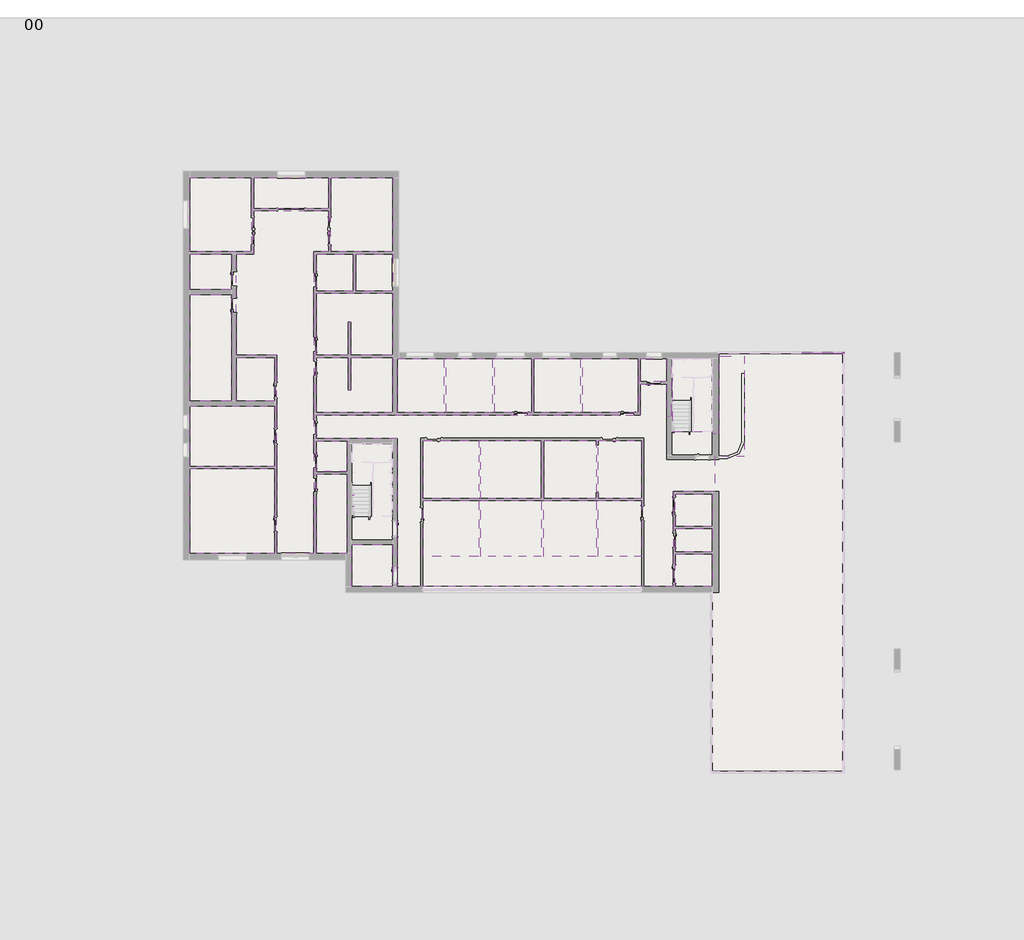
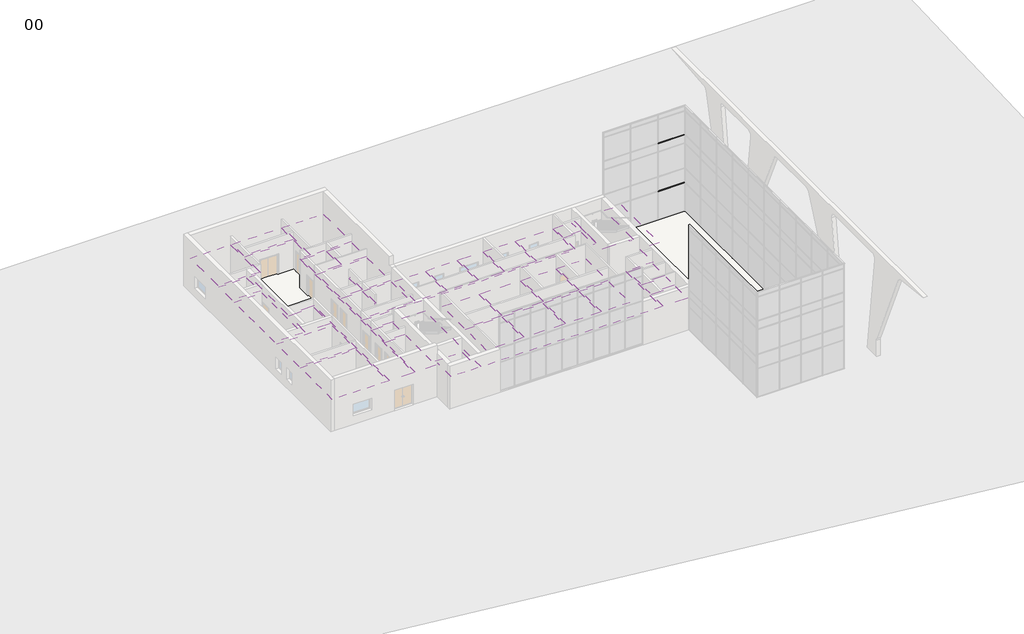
# One storey, part 8 of 11: 36 coverings, 8 footings, 5 members, 4 proxies, 1 slab.
"""IFC4 building model written with IfcOpenShell, lengths in millimetres."""

from ifc_helpers import new_model, si_unit, frame, origin, place, context, project, spatial, polyline, outline, extrude, faceted_brep, transform, mapped, element, save
from components import support_circular_support_bend_943144f1, rectangular_mullion_curtainwallmullion_rectangular_generic_83e55909, rectangular_mullion_curtainwallmullion_rectangular_generic_2e425acd, rectangular_mullion_curtainwallmullion_rectangular_generic_3bdb59d8, rectangular_mullion_curtainwallmullion_rectangular_generic_d47b8a9d

model = new_model("IFC4")

# Units and contexts
model_context = context("Model", 3, world=origin())
ifc_project = project(units=[si_unit("LENGTHUNIT", "METRE", prefix="MILLI")], contexts=[model_context])

# Site, building, storey
site = spatial("IfcSite", under=ifc_project)
building = spatial("IfcBuilding", under=site)
storey = spatial("IfcBuildingStorey", under=building, Name="00", Elevation=0.0)

# Proxies
placement = place(None, origin())
support_circular_support_bend_shape = support_circular_support_bend_943144f1(model_context)
element("IfcBuildingElementProxy", 1, Name="Support_ Circular : Support_Bend", ObjectType="Support_ Circular : Support_Bend", at=placement, inside=storey, context=model_context, shape_type="MappedRepresentation", body=[
    mapped(support_circular_support_bend_shape, transform((422426.7206883, -391834.0026386, 1050.0), x_axis=(1.0, 0.0, 0.0), y_axis=(0.0, 1.0, 0.0), z_axis=(0.0, 0.0, 1.0))),
])
element("IfcBuildingElementProxy", 2, Name="Support_ Circular : Support_Bend", ObjectType="Support_ Circular : Support_Bend", at=placement, inside=storey, context=model_context, shape_type="MappedRepresentation", body=[
    mapped(support_circular_support_bend_shape, transform((422506.7206883, -391150.1319314, 1384.3224243), x_axis=(0.0, 1.0, 0.0), y_axis=(-1.0, 0.0, 0.0), z_axis=(0.0, 0.0, 1.0))),
])
element("IfcBuildingElementProxy", 3, Name="Support_ Circular : Support_Bend", ObjectType="Support_ Circular : Support_Bend", at=placement, inside=storey, context=model_context, shape_type="MappedRepresentation", body=[
    mapped(support_circular_support_bend_shape, transform((422506.7206883, -390406.2122145, 1830.6742544), x_axis=(0.0, 1.0, 0.0), y_axis=(-1.0, 0.0, 0.0), z_axis=(0.0, 0.0, 1.0))),
])
element("IfcBuildingElementProxy", 4, Name="Support_ Circular : Support_Bend", ObjectType="Support_ Circular : Support_Bend", at=placement, inside=storey, context=model_context, shape_type="MappedRepresentation", body=[
    mapped(support_circular_support_bend_shape, transform((422426.7206883, -391834.0026386, 1050.0), x_axis=(1.0, 0.0, 0.0), y_axis=(0.0, 1.0, 0.0), z_axis=(0.0, 0.0, 1.0))),
])

# Coverings
element("IfcCovering", 5, ObjectType="Ceiling_CompoundGeneric", at=placement, inside=storey, context=model_context, shape_type="SweptSolid", body=[
    extrude(outline(polyline([(443102.3206883, -385283.1646258), (443102.3206883, -383693.3886483), (443122.3206883, -383693.3886483), (443122.3206883, -386275.0026386), (445738.3206883, -386275.0026386), (445738.3206883, -386408.0026386), (446140.3206883, -386408.0026386), (446140.3206883, -381395.0026386), (447790.3206883, -381395.0026386), (447790.3206883, -387908.0026386), (445893.3206883, -387908.0026386), (445893.3206883, -390178.0026386), (443188.3206883, -390178.0026386), (443188.3206883, -396328.0026386), (425322.3206883, -396328.0026386), (425322.3206883, -386739.0026386), (422221.3206883, -386739.0026386), (420062.3206883, -386739.0026386), (420062.3206883, -385199.0026386), (425167.3206883, -385199.0026386), (441072.3206883, -385199.0026386), (441072.3206883, -383200.0026386), (442792.3206883, -383200.0026386), (442792.3206883, -385283.1646258), (443102.3206883, -385283.1646258)]), holes=[polyline([(426822.3206883, -394544.0026386), (441292.3206883, -394544.0026386), (441292.3206883, -386699.0026386), (426822.3206883, -386699.0026386), (426822.3206883, -394544.0026386)])]), frame((0.0, 0.0, 3000.0), z_axis=(0.0, 0.0, 1.0), x_axis=(1.0, 0.0, 0.0)), (0.0, 0.0, 1.0), 52.0),
])
element("IfcCovering", 6, ObjectType="Ceiling_CompoundGeneric", at=placement, inside=storey, context=model_context, shape_type="SweptSolid", body=[
    extrude(outline(polyline([(411860.3206883, -374614.0026386), (411860.3206883, -369815.0026386), (415860.3206883, -369815.0026386), (415860.3206883, -374614.0026386), (411860.3206883, -374614.0026386)])), frame((0.0, 0.0, 3000.0), z_axis=(0.0, 0.0, 1.0), x_axis=(1.0, 0.0, 0.0)), (0.0, 0.0, 1.0), 52.0),
])
element("IfcCovering", 7, ObjectType="Ceiling_CompoundGeneric", at=placement, inside=storey, context=model_context, shape_type="SweptSolid", body=[
    extrude(outline(polyline([(416010.3206883, -369815.0026386), (420862.3206883, -369815.0026386), (420862.3206883, -371815.0026386), (416010.3206883, -371815.0026386), (416010.3206883, -369815.0026386)])), frame((0.0, 0.0, 3000.0), z_axis=(0.0, 0.0, 1.0), x_axis=(1.0, 0.0, 0.0)), (0.0, 0.0, 1.0), 52.0),
])
element("IfcCovering", 8, ObjectType="Ceiling_CompoundGeneric", at=placement, inside=storey, context=model_context, shape_type="SweptSolid", body=[
    extrude(outline(polyline([(421012.3206883, -369815.0026386), (425012.3206883, -369815.0026386), (425012.3206883, -374614.0026386), (421012.3206883, -374614.0026386), (421012.3206883, -369815.0026386)])), frame((0.0, 0.0, 3000.0), z_axis=(0.0, 0.0, 1.0), x_axis=(1.0, 0.0, 0.0)), (0.0, 0.0, 1.0), 52.0),
])
element("IfcCovering", 9, ObjectType="Ceiling_CompoundGeneric", at=placement, inside=storey, context=model_context, shape_type="SweptSolid", body=[
    extrude(outline(polyline([(425012.3206883, -374764.0026386), (425012.3206883, -377164.0026386), (422612.3206883, -377164.0026386), (422612.3206883, -374764.0026386), (425012.3206883, -374764.0026386)])), frame((0.0, 0.0, 3000.0), z_axis=(0.0, 0.0, 1.0), x_axis=(1.0, 0.0, 0.0)), (0.0, 0.0, 1.0), 52.0),
])
element("IfcCovering", 10, ObjectType="Ceiling_CompoundGeneric", at=placement, inside=storey, context=model_context, shape_type="SweptSolid", body=[
    extrude(outline(polyline([(422462.3206883, -377164.0026386), (420062.3206883, -377164.0026386), (420062.3206883, -374764.0026386), (422462.3206883, -374764.0026386), (422462.3206883, -377164.0026386)])), frame((0.0, 0.0, 3000.0), z_axis=(0.0, 0.0, 1.0), x_axis=(1.0, 0.0, 0.0)), (0.0, 0.0, 1.0), 52.0),
])
element("IfcCovering", 11, ObjectType="Ceiling_CompoundGeneric", at=placement, inside=storey, context=model_context, shape_type="SweptSolid", body=[
    extrude(outline(polyline([(425012.3206883, -377314.0026386), (425012.3206883, -381320.0026386), (422296.3206883, -381320.0026386), (422296.3206883, -379195.0026386), (422146.3206883, -379195.0026386), (422146.3206883, -381320.0026386), (420062.3206883, -381320.0026386), (420062.3206883, -377314.0026386), (425012.3206883, -377314.0026386)])), frame((0.0, 0.0, 3000.0), z_axis=(0.0, 0.0, 1.0), x_axis=(1.0, 0.0, 0.0)), (0.0, 0.0, 1.0), 52.0),
])
element("IfcCovering", 12, ObjectType="Ceiling_CompoundGeneric", at=placement, inside=storey, context=model_context, shape_type="SweptSolid", body=[
    extrude(outline(polyline([(425012.3206883, -381470.0026386), (425012.3206883, -385049.0026386), (420062.3206883, -385049.0026386), (420062.3206883, -381470.0026386), (422146.3206883, -381470.0026386), (422146.3206883, -383595.0026386), (422296.3206883, -383595.0026386), (422296.3206883, -381470.0026386), (425012.3206883, -381470.0026386)])), frame((0.0, 0.0, 3000.0), z_axis=(0.0, 0.0, 1.0), x_axis=(1.0, 0.0, 0.0)), (0.0, 0.0, 1.0), 52.0),
])
element("IfcCovering", 13, ObjectType="Ceiling_CompoundGeneric", at=placement, inside=storey, context=model_context, shape_type="SweptSolid", body=[
    extrude(outline(polyline([(420062.3206883, -386889.0026386), (422066.3206883, -386889.0026386), (422066.3206883, -388889.0026386), (420062.3206883, -388889.0026386), (420062.3206883, -386889.0026386)])), frame((0.0, 0.0, 3000.0), z_axis=(0.0, 0.0, 1.0), x_axis=(1.0, 0.0, 0.0)), (0.0, 0.0, 1.0), 52.0),
])
element("IfcCovering", 14, ObjectType="Ceiling_CompoundGeneric", at=placement, inside=storey, context=model_context, shape_type="SweptSolid", body=[
    extrude(outline(polyline([(422066.3206883, -394194.0026386), (420062.3206883, -394194.0026386), (420062.3206883, -389039.0026386), (422066.3206883, -389039.0026386), (422066.3206883, -394194.0026386)])), frame((0.0, 0.0, 3000.0), z_axis=(0.0, 0.0, 1.0), x_axis=(1.0, 0.0, 0.0)), (0.0, 0.0, 1.0), 52.0),
])
element("IfcCovering", 15, ObjectType="Ceiling_CompoundGeneric", at=placement, inside=storey, context=model_context, shape_type="SweptSolid", body=[
    extrude(outline(polyline([(411860.3206883, -394194.0026386), (411860.3206883, -388694.0026386), (417360.3206883, -388694.0026386), (417360.3206883, -394194.0026386), (411860.3206883, -394194.0026386)])), frame((0.0, 0.0, 3000.0), z_axis=(0.0, 0.0, 1.0), x_axis=(1.0, 0.0, 0.0)), (0.0, 0.0, 1.0), 52.0),
])
element("IfcCovering", 16, ObjectType="Ceiling_CompoundGeneric", at=placement, inside=storey, context=model_context, shape_type="SweptSolid", body=[
    extrude(outline(polyline([(411860.3206883, -388544.0026386), (411860.3206883, -384624.0026386), (417360.3206883, -384624.0026386), (417360.3206883, -388544.0026386), (411860.3206883, -388544.0026386)])), frame((0.0, 0.0, 3000.0), z_axis=(0.0, 0.0, 1.0), x_axis=(1.0, 0.0, 0.0)), (0.0, 0.0, 1.0), 52.0),
])
element("IfcCovering", 17, ObjectType="Ceiling_CompoundGeneric", at=placement, inside=storey, context=model_context, shape_type="SweptSolid", body=[
    extrude(outline(polyline([(411860.3206883, -384314.0026386), (411860.3206883, -377394.0026386), (414580.3206883, -377394.0026386), (414580.3206883, -384314.0026386), (411860.3206883, -384314.0026386)])), frame((0.0, 0.0, 3000.0), z_axis=(0.0, 0.0, 1.0), x_axis=(1.0, 0.0, 0.0)), (0.0, 0.0, 1.0), 52.0),
])
element("IfcCovering", 18, ObjectType="Ceiling_CompoundGeneric", at=placement, inside=storey, context=model_context, shape_type="SweptSolid", body=[
    extrude(outline(polyline([(414890.3206883, -381470.0026386), (417360.3206883, -381470.0026386), (417360.3206883, -384314.0026386), (414890.3206883, -384314.0026386), (414890.3206883, -381470.0026386)])), frame((0.0, 0.0, 3000.0), z_axis=(0.0, 0.0, 1.0), x_axis=(1.0, 0.0, 0.0)), (0.0, 0.0, 1.0), 52.0),
])
element("IfcCovering", 19, ObjectType="Ceiling_CompoundGeneric", at=placement, inside=storey, context=model_context, shape_type="SweptSolid", body=[
    extrude(outline(polyline([(414580.3206883, -377084.0026386), (411860.3206883, -377084.0026386), (411860.3206883, -374764.0026386), (414580.3206883, -374764.0026386), (414580.3206883, -377084.0026386)])), frame((0.0, 0.0, 3000.0), z_axis=(0.0, 0.0, 1.0), x_axis=(1.0, 0.0, 0.0)), (0.0, 0.0, 1.0), 52.0),
])
element("IfcCovering", 20, ObjectType="Ceiling_CompoundGeneric", at=placement, inside=storey, context=model_context, shape_type="SweptSolid", body=[
    extrude(outline(polyline([(411860.3206883, -374614.0026386), (411860.3206883, -369815.0026386), (415860.3206883, -369815.0026386), (415860.3206883, -374614.0026386), (411860.3206883, -374614.0026386)])), frame((0.0, 0.0, 3000.0), z_axis=(0.0, 0.0, 1.0), x_axis=(1.0, 0.0, 0.0)), (0.0, 0.0, 1.0), 52.0),
])
element("IfcCovering", 21, ObjectType="Ceiling_CompoundGeneric", at=placement, inside=storey, context=model_context, shape_type="SweptSolid", body=[
    extrude(outline(polyline([(419912.3206883, -386814.0026386), (419912.3206883, -394194.0026386), (417510.3206883, -394194.0026386), (417510.3206883, -381320.0026386), (414890.3206883, -381320.0026386), (414890.3206883, -374764.0026386), (416010.3206883, -374764.0026386), (416010.3206883, -371965.0026386), (420862.3206883, -371965.0026386), (420862.3206883, -374614.0026386), (419912.3206883, -374614.0026386), (419912.3206883, -377239.0026386), (419912.3206883, -385124.0026386), (419912.3206883, -386814.0026386)])), frame((0.0, 0.0, 3000.0), z_axis=(0.0, 0.0, 1.0), x_axis=(1.0, 0.0, 0.0)), (0.0, 0.0, 1.0), 52.0),
])
element("IfcCovering", 22, ObjectType="Ceiling_CompoundGeneric", at=placement, inside=storey, context=model_context, shape_type="SweptSolid", body=[
    extrude(outline(polyline([(425012.3206883, -396328.0026386), (422376.3206883, -396328.0026386), (422376.3206883, -394395.0026386), (422376.3206883, -393609.0026386), (425012.3206883, -393609.0026386), (425012.3206883, -396328.0026386)])), frame((0.0, 0.0, 3000.0), z_axis=(0.0, 0.0, 1.0), x_axis=(1.0, 0.0, 0.0)), (0.0, 0.0, 1.0), 52.0),
])
element("IfcCovering", 23, ObjectType="Ceiling_CompoundGeneric", at=placement, inside=storey, context=model_context, shape_type="SweptSolid", body=[
    extrude(outline(polyline([(426972.3206883, -394394.0026386), (426972.3206883, -390768.0026386), (430578.3206883, -390768.0026386), (430578.3206883, -394394.0026386), (426972.3206883, -394394.0026386)])), frame((0.0, 0.0, 3000.0), z_axis=(0.0, 0.0, 1.0), x_axis=(1.0, 0.0, 0.0)), (0.0, 0.0, 1.0), 52.0),
])
element("IfcCovering", 24, ObjectType="Ceiling_CompoundGeneric", at=placement, inside=storey, context=model_context, shape_type="SweptSolid", body=[
    extrude(outline(polyline([(434652.8762438, -394394.0026386), (430728.3206883, -394394.0026386), (430728.3206883, -390768.0026386), (434652.8762438, -390768.0026386), (434652.8762438, -394394.0026386)])), frame((0.0, 0.0, 3000.0), z_axis=(0.0, 0.0, 1.0), x_axis=(1.0, 0.0, 0.0)), (0.0, 0.0, 1.0), 52.0),
])
element("IfcCovering", 25, ObjectType="Ceiling_CompoundGeneric", at=placement, inside=storey, context=model_context, shape_type="SweptSolid", body=[
    extrude(outline(polyline([(438198.3206883, -394394.0026386), (434802.8762438, -394394.0026386), (434802.8762438, -390768.0026386), (438198.3206883, -390768.0026386), (438198.3206883, -394394.0026386)])), frame((0.0, 0.0, 3000.0), z_axis=(0.0, 0.0, 1.0), x_axis=(1.0, 0.0, 0.0)), (0.0, 0.0, 1.0), 52.0),
])
element("IfcCovering", 26, ObjectType="Ceiling_CompoundGeneric", at=placement, inside=storey, context=model_context, shape_type="SweptSolid", body=[
    extrude(outline(polyline([(441142.3206883, -394394.0026386), (438348.3206883, -394394.0026386), (438348.3206883, -390768.0026386), (441142.3206883, -390768.0026386), (441142.3206883, -394394.0026386)])), frame((0.0, 0.0, 3000.0), z_axis=(0.0, 0.0, 1.0), x_axis=(1.0, 0.0, 0.0)), (0.0, 0.0, 1.0), 52.0),
])
element("IfcCovering", 27, ObjectType="Ceiling_CompoundGeneric", at=placement, inside=storey, context=model_context, shape_type="SweptSolid", body=[
    extrude(outline(polyline([(438348.3206883, -390618.0026386), (438348.3206883, -386849.0026386), (441142.3206883, -386849.0026386), (441142.3206883, -390618.0026386), (438348.3206883, -390618.0026386)])), frame((0.0, 0.0, 3000.0), z_axis=(0.0, 0.0, 1.0), x_axis=(1.0, 0.0, 0.0)), (0.0, 0.0, 1.0), 52.0),
])
element("IfcCovering", 28, ObjectType="Ceiling_CompoundGeneric", at=placement, inside=storey, context=model_context, shape_type="SweptSolid", body=[
    extrude(outline(polyline([(434802.8762438, -390618.0026386), (434802.8762438, -386849.0026386), (438198.3206883, -386849.0026386), (438198.3206883, -390618.0026386), (434802.8762438, -390618.0026386)])), frame((0.0, 0.0, 3000.0), z_axis=(0.0, 0.0, 1.0), x_axis=(1.0, 0.0, 0.0)), (0.0, 0.0, 1.0), 52.0),
])
element("IfcCovering", 29, ObjectType="Ceiling_CompoundGeneric", at=placement, inside=storey, context=model_context, shape_type="SweptSolid", body=[
    extrude(outline(polyline([(430728.3206883, -390618.0026386), (430728.3206883, -386849.0026386), (434652.8762438, -386849.0026386), (434652.8762438, -390618.0026386), (430728.3206883, -390618.0026386)])), frame((0.0, 0.0, 3000.0), z_axis=(0.0, 0.0, 1.0), x_axis=(1.0, 0.0, 0.0)), (0.0, 0.0, 1.0), 52.0),
])
element("IfcCovering", 30, ObjectType="Ceiling_CompoundGeneric", at=placement, inside=storey, context=model_context, shape_type="SweptSolid", body=[
    extrude(outline(polyline([(426972.3206883, -386849.0026386), (430578.3206883, -386849.0026386), (430578.3206883, -390618.0026386), (426972.3206883, -390618.0026386), (426972.3206883, -386849.0026386)])), frame((0.0, 0.0, 3000.0), z_axis=(0.0, 0.0, 1.0), x_axis=(1.0, 0.0, 0.0)), (0.0, 0.0, 1.0), 52.0),
])
element("IfcCovering", 31, ObjectType="Ceiling_CompoundGeneric", at=placement, inside=storey, context=model_context, shape_type="SweptSolid", body=[
    extrude(outline(polyline([(445738.3206883, -394228.0026386), (445738.3206883, -396328.0026386), (443338.3206883, -396328.0026386), (443338.3206883, -394228.0026386), (445738.3206883, -394228.0026386)])), frame((0.0, 0.0, 3000.0), z_axis=(0.0, 0.0, 1.0), x_axis=(1.0, 0.0, 0.0)), (0.0, 0.0, 1.0), 52.0),
])
element("IfcCovering", 32, ObjectType="Ceiling_CompoundGeneric", at=placement, inside=storey, context=model_context, shape_type="SweptSolid", body=[
    extrude(outline(polyline([(445738.3206883, -392578.0026386), (445738.3206883, -394078.0026386), (443338.3206883, -394078.0026386), (443338.3206883, -392578.0026386), (445738.3206883, -392578.0026386)])), frame((0.0, 0.0, 3000.0), z_axis=(0.0, 0.0, 1.0), x_axis=(1.0, 0.0, 0.0)), (0.0, 0.0, 1.0), 52.0),
])
element("IfcCovering", 33, ObjectType="Ceiling_CompoundGeneric", at=placement, inside=storey, context=model_context, shape_type="SweptSolid", body=[
    extrude(outline(polyline([(445738.3206883, -390328.0026386), (445738.3206883, -392428.0026386), (443338.3206883, -392428.0026386), (443338.3206883, -390328.0026386), (445738.3206883, -390328.0026386)])), frame((0.0, 0.0, 3000.0), z_axis=(0.0, 0.0, 1.0), x_axis=(1.0, 0.0, 0.0)), (0.0, 0.0, 1.0), 52.0),
])
element("IfcCovering", 34, ObjectType="Ceiling_CompoundGeneric", at=placement, inside=storey, context=model_context, shape_type="SweptSolid", body=[
    extrude(outline(polyline([(443102.3206883, -383550.0026386), (443102.3206883, -381550.0026386), (443122.3206883, -381550.0026386), (443122.3206883, -383550.0026386), (443102.3206883, -383550.0026386)])), frame((0.0, 0.0, 3000.0), z_axis=(0.0, 0.0, 1.0), x_axis=(1.0, 0.0, 0.0)), (0.0, 0.0, 1.0), 52.0),
])
element("IfcCovering", 35, ObjectType="Ceiling_CompoundGeneric", at=placement, inside=storey, context=model_context, shape_type="SweptSolid", body=[
    extrude(outline(polyline([(441072.3206883, -381550.0026386), (442792.3206883, -381550.0026386), (442792.3206883, -383050.0026386), (441072.3206883, -383050.0026386), (441072.3206883, -381550.0026386)])), frame((0.0, 0.0, 3000.0), z_axis=(0.0, 0.0, 1.0), x_axis=(1.0, 0.0, 0.0)), (0.0, 0.0, 1.0), 52.0),
])
element("IfcCovering", 36, ObjectType="Ceiling_CompoundGeneric", at=placement, inside=storey, context=model_context, shape_type="SweptSolid", body=[
    extrude(outline(polyline([(437322.3206883, -381550.0026386), (440922.3206883, -381550.0026386), (440922.3206883, -385049.0026386), (437322.3206883, -385049.0026386), (437322.3206883, -381550.0026386)])), frame((0.0, 0.0, 3000.0), z_axis=(0.0, 0.0, 1.0), x_axis=(1.0, 0.0, 0.0)), (0.0, 0.0, 1.0), 52.0),
])
element("IfcCovering", 37, ObjectType="Ceiling_CompoundGeneric", at=placement, inside=storey, context=model_context, shape_type="SweptSolid", body=[
    extrude(outline(polyline([(434172.3206883, -381550.0026386), (437172.3206883, -381550.0026386), (437172.3206883, -385049.0026386), (434172.3206883, -385049.0026386), (434172.3206883, -381550.0026386)])), frame((0.0, 0.0, 3000.0), z_axis=(0.0, 0.0, 1.0), x_axis=(1.0, 0.0, 0.0)), (0.0, 0.0, 1.0), 52.0),
])
element("IfcCovering", 38, ObjectType="Ceiling_CompoundGeneric", at=placement, inside=storey, context=model_context, shape_type="SweptSolid", body=[
    extrude(outline(polyline([(431622.3206883, -381550.0026386), (434022.3206883, -381550.0026386), (434022.3206883, -385049.0026386), (431622.3206883, -385049.0026386), (431622.3206883, -381550.0026386)])), frame((0.0, 0.0, 3000.0), z_axis=(0.0, 0.0, 1.0), x_axis=(1.0, 0.0, 0.0)), (0.0, 0.0, 1.0), 52.0),
])
element("IfcCovering", 39, ObjectType="Ceiling_CompoundGeneric", at=placement, inside=storey, context=model_context, shape_type="SweptSolid", body=[
    extrude(outline(polyline([(428472.3206883, -381550.0026386), (431472.3206883, -381550.0026386), (431472.3206883, -385049.0026386), (428472.3206883, -385049.0026386), (428472.3206883, -381550.0026386)])), frame((0.0, 0.0, 3000.0), z_axis=(0.0, 0.0, 1.0), x_axis=(1.0, 0.0, 0.0)), (0.0, 0.0, 1.0), 52.0),
])
element("IfcCovering", 40, ObjectType="Ceiling_CompoundGeneric", at=placement, inside=storey, context=model_context, shape_type="SweptSolid", body=[
    extrude(outline(polyline([(425322.3206883, -385049.0026386), (425322.3206883, -381550.0026386), (428322.3206883, -381550.0026386), (428322.3206883, -385049.0026386), (425322.3206883, -385049.0026386)])), frame((0.0, 0.0, 3000.0), z_axis=(0.0, 0.0, 1.0), x_axis=(1.0, 0.0, 0.0)), (0.0, 0.0, 1.0), 52.0),
])

# Footings
element("IfcFooting", 41, ObjectType="StructuralFoundation_WallFoundation", at=placement, inside=storey, context=model_context, shape_type="Brep", body=[
    faceted_brep([(446396.5206883, -396071.8026386, -1000.0), (445482.1206883, -396071.8026386, -1000.0), (422632.5206883, -396071.8026386, -1000.0), (421718.1206883, -396071.8026386, -1000.0), (421718.1206883, -396986.2026386, -1000.0), (446396.5206883, -396986.2026386, -1000.0), (446396.5206883, -396986.2026386, -1304.8), (421718.1206883, -396986.2026386, -1304.8), (446396.5206883, -396071.8026386, -1304.8), (421718.1206883, -396071.8026386, -1304.8), (422632.5206883, -396071.8026386, -1304.8), (445482.1206883, -396071.8026386, -1304.8)], [[[0, 1, 2, 3, 4, 5]], [[6, 5, 4, 7]], [[8, 6, 7, 9, 10, 11]], [[0, 8, 11, 10, 9, 3, 2, 1]], [[4, 3, 9, 7]], [[0, 5, 6, 8]]]),
])
element("IfcFooting", 42, ObjectType="StructuralFoundation_WallFoundation", at=placement, inside=storey, context=model_context, shape_type="Brep", body=[
    faceted_brep([(422632.5206883, -393937.8026386, -1000.0), (421718.1206883, -393937.8026386, -1000.0), (421718.1206883, -394852.2026386, -1000.0), (421718.1206883, -396071.8026386, -1000.0), (422632.5206883, -396071.8026386, -1000.0), (421718.1206883, -393937.8026386, -1304.8), (421718.1206883, -394852.2026386, -1304.8), (421718.1206883, -396071.8026386, -1304.8), (422632.5206883, -393937.8026386, -1304.8), (422632.5206883, -396071.8026386, -1304.8)], [[[0, 1, 2, 3, 4]], [[1, 5, 6, 7, 3, 2]], [[5, 8, 9, 7, 6]], [[8, 0, 4, 9]], [[4, 3, 7, 9]], [[1, 0, 8, 5]]]),
])
element("IfcFooting", 43, ObjectType="StructuralFoundation_WallFoundation", at=placement, inside=storey, context=model_context, shape_type="Brep", body=[
    faceted_brep([(411202.1206883, -393937.8026386, -1000.0), (411202.1206883, -394852.2026386, -1000.0), (421718.1206883, -394852.2026386, -1000.0), (421718.1206883, -393937.8026386, -1000.0), (412116.5206883, -393937.8026386, -1000.0), (411202.1206883, -394852.2026386, -1304.8), (421718.1206883, -394852.2026386, -1304.8), (411202.1206883, -393937.8026386, -1304.8), (412116.5206883, -393937.8026386, -1304.8), (421718.1206883, -393937.8026386, -1304.8)], [[[0, 1, 2, 3, 4]], [[1, 5, 6, 2]], [[5, 7, 8, 9, 6]], [[7, 0, 4, 3, 9, 8]], [[3, 2, 6, 9]], [[1, 0, 7, 5]]]),
])
element("IfcFooting", 44, ObjectType="StructuralFoundation_WallFoundation", at=placement, inside=storey, context=model_context, shape_type="Brep", body=[
    faceted_brep([(412116.5206883, -369156.8026386, -1000.0), (411202.1206883, -369156.8026386, -1000.0), (411202.1206883, -393937.8026386, -1000.0), (412116.5206883, -393937.8026386, -1000.0), (412116.5206883, -370071.2026386, -1000.0), (411202.1206883, -369156.8026386, -1304.8), (411202.1206883, -393937.8026386, -1304.8), (412116.5206883, -369156.8026386, -1304.8), (412116.5206883, -370071.2026386, -1304.8), (412116.5206883, -393937.8026386, -1304.8)], [[[0, 1, 2, 3, 4]], [[1, 5, 6, 2]], [[5, 7, 8, 9, 6]], [[7, 0, 4, 3, 9, 8]], [[3, 2, 6, 9]], [[1, 0, 7, 5]]]),
])
element("IfcFooting", 45, ObjectType="StructuralFoundation_WallFoundation", at=placement, inside=storey, context=model_context, shape_type="Brep", body=[
    faceted_brep([(425670.5206883, -370071.2026386, -1000.0), (425670.5206883, -369156.8026386, -1000.0), (412116.5206883, -369156.8026386, -1000.0), (412116.5206883, -370071.2026386, -1000.0), (424756.1206883, -370071.2026386, -1000.0), (425670.5206883, -369156.8026386, -1304.8), (412116.5206883, -369156.8026386, -1304.8), (425670.5206883, -370071.2026386, -1304.8), (424756.1206883, -370071.2026386, -1304.8), (412116.5206883, -370071.2026386, -1304.8)], [[[0, 1, 2, 3, 4]], [[1, 5, 6, 2]], [[5, 7, 8, 9, 6]], [[7, 0, 4, 3, 9, 8]], [[3, 2, 6, 9]], [[1, 0, 7, 5]]]),
])
element("IfcFooting", 46, ObjectType="StructuralFoundation_WallFoundation", at=placement, inside=storey, context=model_context, shape_type="Brep", body=[
    faceted_brep([(424756.1206883, -381806.2026386, -1000.0), (425670.5206883, -381806.2026386, -1000.0), (425670.5206883, -380891.8026386, -1000.0), (425670.5206883, -370071.2026386, -1000.0), (424756.1206883, -370071.2026386, -1000.0), (425670.5206883, -381806.2026386, -1304.8), (425670.5206883, -380891.8026386, -1304.8), (425670.5206883, -370071.2026386, -1304.8), (424756.1206883, -381806.2026386, -1304.8), (424756.1206883, -370071.2026386, -1304.8)], [[[0, 1, 2, 3, 4]], [[1, 5, 6, 7, 3, 2]], [[5, 8, 9, 7, 6]], [[8, 0, 4, 9]], [[4, 3, 7, 9]], [[1, 0, 8, 5]]]),
])
element("IfcFooting", 47, ObjectType="StructuralFoundation_WallFoundation", at=placement, inside=storey, context=model_context, shape_type="Brep", body=[
    faceted_brep([(446396.5206883, -381806.2026386, -1000.0), (446396.5206883, -380891.8026386, -1000.0), (425670.5206883, -380891.8026386, -1000.0), (425670.5206883, -381806.2026386, -1000.0), (445482.1206883, -381806.2026386, -1000.0), (446396.5206883, -380891.8026386, -1304.8), (425670.5206883, -380891.8026386, -1304.8), (446396.5206883, -381806.2026386, -1304.8), (445482.1206883, -381806.2026386, -1304.8), (425670.5206883, -381806.2026386, -1304.8)], [[[0, 1, 2, 3, 4]], [[1, 5, 6, 2]], [[5, 7, 8, 9, 6]], [[7, 0, 4, 3, 9, 8]], [[3, 2, 6, 9]], [[1, 0, 7, 5]]]),
])
element("IfcFooting", 48, ObjectType="StructuralFoundation_WallFoundation", at=placement, inside=storey, context=model_context, shape_type="SweptSolid", body=[
    extrude(outline(polyline([(446396.5206883, -396071.8026386), (445482.1206883, -396071.8026386), (445482.1206883, -381806.2026386), (446396.5206883, -381806.2026386), (446396.5206883, -396071.8026386)])), frame((0.0, 0.0, -1304.8), z_axis=(0.0, 0.0, 1.0), x_axis=(1.0, 0.0, 0.0)), (0.0, 0.0, 1.0), 304.8),
])

# Members
rectangular_mullion_curtainwallmullion_rectangular_generic_shape = rectangular_mullion_curtainwallmullion_rectangular_generic_83e55909(model_context)
element("IfcMember", 49, ObjectType="Rectangular Mullion : CurtainWallMullion_Rectangular_Generic", at=placement, inside=storey, context=model_context, shape_type="MappedRepresentation", body=[
    mapped(rectangular_mullion_curtainwallmullion_rectangular_generic_shape, transform((454246.3206883, -381170.0026386, 8000.0), x_axis=(1.0, 0.0, 0.0), y_axis=(0.0, -1.0, 0.0), z_axis=(0.0, 0.0, -1.0))),
])
rectangular_mullion_curtainwallmullion_rectangular_generic_2_shape = rectangular_mullion_curtainwallmullion_rectangular_generic_2e425acd(model_context)
element("IfcMember", 50, ObjectType="Rectangular Mullion : CurtainWallMullion_Rectangular_Generic", at=placement, inside=storey, context=model_context, shape_type="MappedRepresentation", body=[
    mapped(rectangular_mullion_curtainwallmullion_rectangular_generic_2_shape, transform((454196.3206883, -381170.0026386, 8000.0), x_axis=(0.0, 0.0, 1.0), y_axis=(0.0, -1.0, 0.0), z_axis=(1.0, 0.0, 0.0))),
])
element("IfcMember", 51, ObjectType="Rectangular Mullion : CurtainWallMullion_Rectangular_Generic", at=placement, inside=storey, context=model_context, shape_type="MappedRepresentation", body=[
    mapped(rectangular_mullion_curtainwallmullion_rectangular_generic_2_shape, transform((454196.3206883, -381170.0026386, 3000.0), x_axis=(0.0, 0.0, 1.0), y_axis=(0.0, -1.0, 0.0), z_axis=(1.0, 0.0, 0.0))),
])
rectangular_mullion_curtainwallmullion_rectangular_generic_3_shape = rectangular_mullion_curtainwallmullion_rectangular_generic_3bdb59d8(model_context)
element("IfcMember", 52, ObjectType="Rectangular Mullion : CurtainWallMullion_Rectangular_Generic", at=placement, inside=storey, context=model_context, shape_type="MappedRepresentation", body=[
    mapped(rectangular_mullion_curtainwallmullion_rectangular_generic_3_shape, transform((454246.3206883, -381170.0026386, 3000.0), x_axis=(1.0, 0.0, 0.0), y_axis=(0.0, -1.0, 0.0), z_axis=(0.0, 0.0, -1.0))),
])
rectangular_mullion_curtainwallmullion_rectangular_generic_4_shape = rectangular_mullion_curtainwallmullion_rectangular_generic_d47b8a9d(model_context)
element("IfcMember", 53, ObjectType="Rectangular Mullion : CurtainWallMullion_Rectangular_Generic", at=placement, inside=storey, context=model_context, shape_type="MappedRepresentation", body=[
    mapped(rectangular_mullion_curtainwallmullion_rectangular_generic_4_shape, transform((454246.3206883, -381170.0026386, 3000.0), x_axis=(0.0, 1.0, 0.0), y_axis=(-1.0, 0.0, 0.0), z_axis=(0.0, 0.0, 1.0))),
])

# Slab
element("IfcSlab", 54, ObjectType="Floor_WSUK_Bearing", at=placement, inside=storey, context=model_context, shape_type="SweptSolid", body=[
    extrude(outline(polyline([(425092.3206883, -369735.0026386), (425092.3206883, -381470.0026386), (445818.3206883, -381470.0026386), (445818.3206883, -388030.0026386), (446140.3206883, -388030.0026386), (446140.3206883, -381170.0026386), (454246.3206883, -381170.0026386), (454246.3206883, -408366.0026386), (445668.3206883, -408366.0026386), (445668.3206883, -396718.0026386), (446140.3206883, -396718.0026386), (446140.3206883, -390178.0026386), (445818.3206883, -390178.0026386), (445818.3206883, -396408.0026386), (422296.3206883, -396408.0026386), (422296.3206883, -394274.0026386), (411780.3206883, -394274.0026386), (411780.3206883, -369735.0026386), (425092.3206883, -369735.0026386)])), frame((0.0, 0.0, -602.0), z_axis=(0.0, 0.0, 1.0), x_axis=(1.0, 0.0, 0.0)), (0.0, 0.0, 1.0), 602.0),
])

save(model, "model.ifc")
